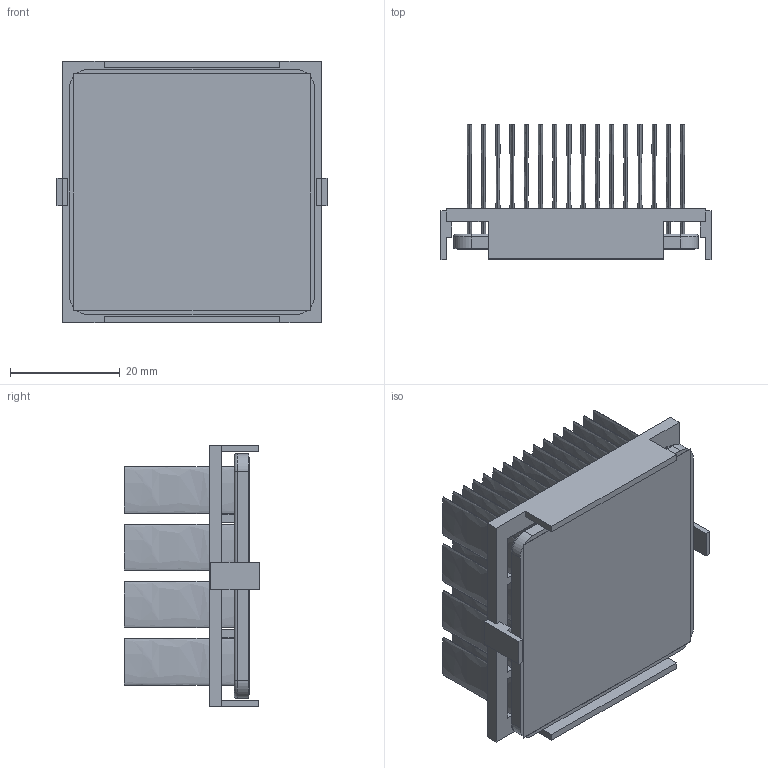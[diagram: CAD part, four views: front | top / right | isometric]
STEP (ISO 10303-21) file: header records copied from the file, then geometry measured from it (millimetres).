
FILE_DESCRIPTION (( 'STEP AP214' ), '1' );
FILE_NAME ('INM45001-23W-2.6BU.STEP', '2023-02-28T00:47:23', ( '' ), ( '' ), 'SwSTEP 2.0', 'SolidWorks 2020', '' );
FILE_SCHEMA (( 'AUTOMOTIVE_DESIGN' ));
Length unit declared in the file: inch
Products named in the file (1): INM45001-23W-2.6BU
Bounding box: 49.2 x 24.6 x 47.7 mm (x, y, z)
Volume: 14462.1 mm3; surface area: 33503.5 mm2
Topology: 3 solids, 3 shells, 274 faces, 604 edges, 400 vertices
Faces by surface type: plane 134, bspline 128, cylinder 8, torus 4
Entity records: 11396 total; most frequent: CARTESIAN_POINT 2943, ORIENTED_EDGE 1208, DIRECTION 662, EDGE_CURVE 604, VERTEX_POINT 400, EDGE_LOOP 340, VECTOR 328, LINE 328
